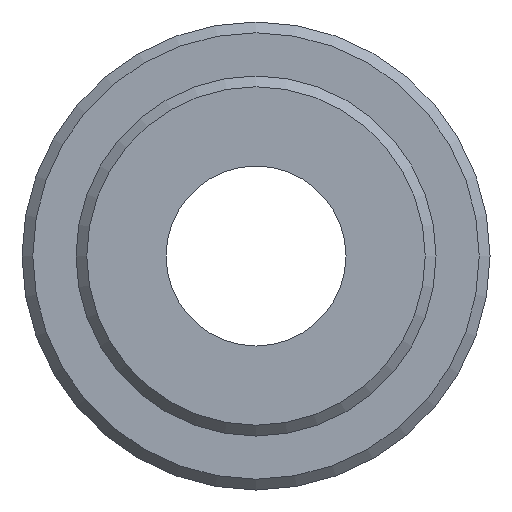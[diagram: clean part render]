
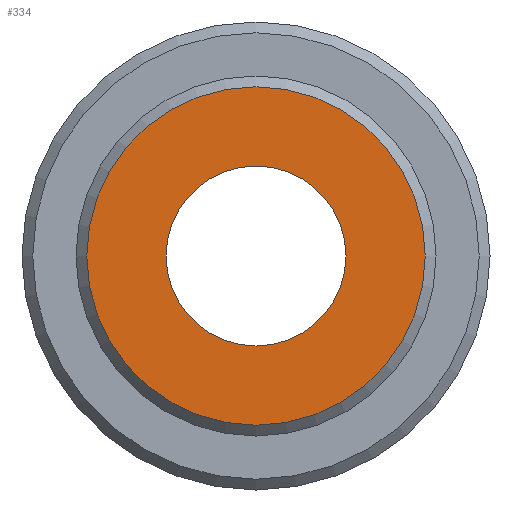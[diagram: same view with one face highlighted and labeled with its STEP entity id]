
A CAD part, front view. The second image highlights one B-rep face of the part: STEP entity #334.
In plain terms, the highlighted planar face has unit normal (0, -1, 0).
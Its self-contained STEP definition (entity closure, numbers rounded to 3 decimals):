
#22=FACE_BOUND('',#109,.T.);
#29=PLANE('',#411);
#82=FACE_OUTER_BOUND('',#108,.T.);
#108=EDGE_LOOP('',(#299));
#109=EDGE_LOOP('',(#300));
#127=CIRCLE('',#377,2.5);
#147=CIRCLE('',#409,4.7);
#158=VERTEX_POINT('',#567);
#177=VERTEX_POINT('',#625);
#192=EDGE_CURVE('',#158,#158,#127,.T.);
#219=EDGE_CURVE('',#177,#177,#147,.T.);
#299=ORIENTED_EDGE('',*,*,#219,.F.);
#300=ORIENTED_EDGE('',*,*,#192,.T.);
#334=ADVANCED_FACE('',(#82,#22),#29,.T.);
#377=AXIS2_PLACEMENT_3D('',#569,#451,#452);
#409=AXIS2_PLACEMENT_3D('',#627,#522,#523);
#411=AXIS2_PLACEMENT_3D('',#630,#527,#528);
#451=DIRECTION('center_axis',(0.,1.,0.));
#452=DIRECTION('ref_axis',(1.,0.,0.));
#522=DIRECTION('center_axis',(0.,1.,0.));
#523=DIRECTION('ref_axis',(-1.,0.,0.));
#527=DIRECTION('center_axis',(0.,-1.,0.));
#528=DIRECTION('ref_axis',(0.,0.,-1.));
#567=CARTESIAN_POINT('',(-2.5,0.,0.));
#569=CARTESIAN_POINT('Origin',(0.,0.,0.));
#625=CARTESIAN_POINT('',(4.7,0.,0.));
#627=CARTESIAN_POINT('Origin',(0.,0.,0.));
#630=CARTESIAN_POINT('Origin',(5.,0.,0.));
